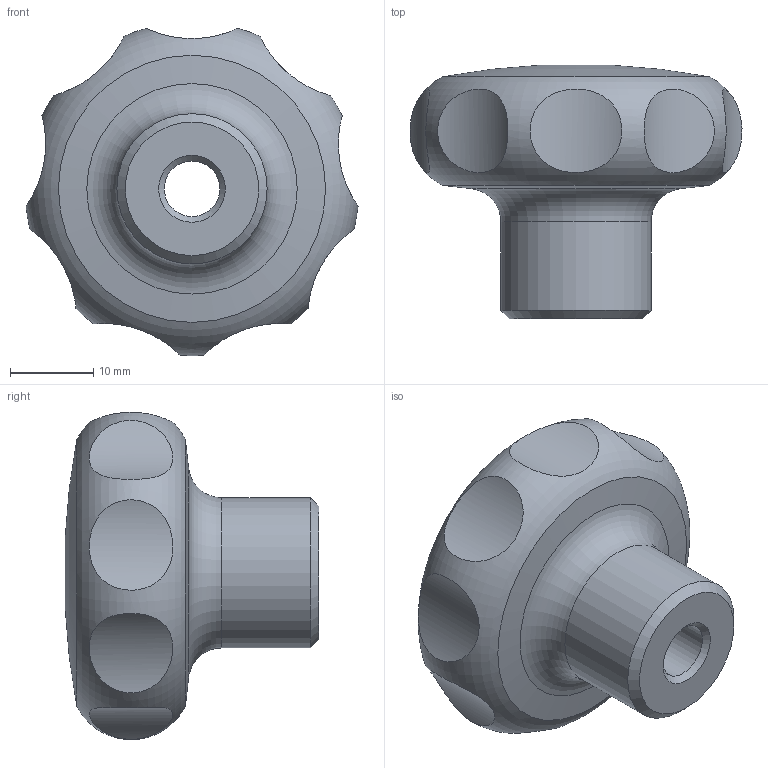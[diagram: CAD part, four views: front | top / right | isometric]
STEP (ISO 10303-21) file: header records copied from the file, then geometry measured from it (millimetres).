
FILE_DESCRIPTION( ( 'STEP AP203' ), '1' );
FILE_NAME( 'C:/Temp/Ganter_Step_05_03_2020/data/2_2/gn_5335/gn_5335_ni_d/Stainless steel-Star knob GN 5335-40-M8-D.stp', '2020-03-05T12:10:23', ( 'License CC BY-ND 4.0' ), ( 'CADENAS' ), ' ', 'PARTsolutions', ' ' );
FILE_SCHEMA( ( 'CONFIG_CONTROL_DESIGN' ) );
Length unit declared in the file: millimetre
Products named in the file (1): _Stainless steel-Star knob GN 5335-40-M8-D
Bounding box: 39.77 x 30.41 x 39.22 mm (x, y, z)
Volume: 17428 mm3; surface area: 4830.8 mm2
Topology: 1 solids, 1 shells, 20 faces, 30 edges, 20 vertices
Faces by surface type: cylinder 12, cone 3, torus 2, sphere 2, plane 1
Full cylindrical faces by diameter (mm): 6.647 x1, 8 x1, 18 x1
Entity records: 1195 total; most frequent: CARTESIAN_POINT 828, DIRECTION 64, EDGE_LOOP 40, ORIENTED_EDGE 40, AXIS2_PLACEMENT_3D 32, FACE_OUTER_BOUND 27, VERTEX_POINT 21, ADVANCED_FACE 20
